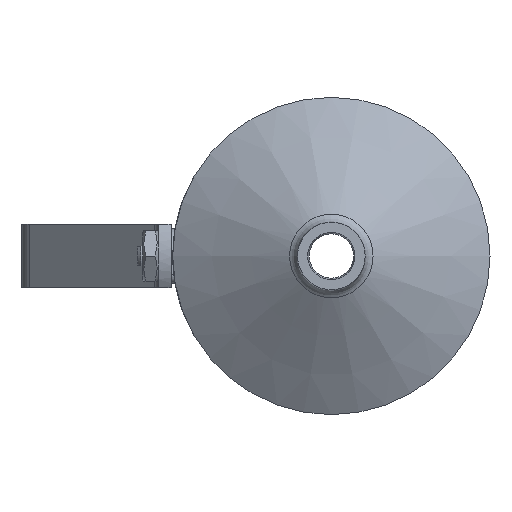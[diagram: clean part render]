
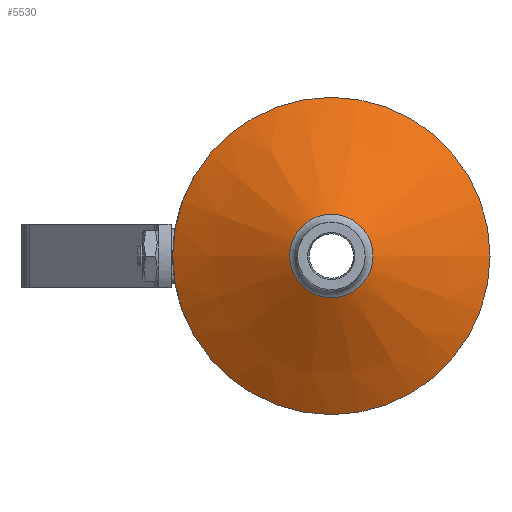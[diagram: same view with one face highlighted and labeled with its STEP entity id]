
A CAD part, left-side view. The second image highlights one B-rep face of the part: STEP entity #5530.
In plain terms, the highlighted conical face has half-angle 60 degrees and reference radius 31.575 mm.
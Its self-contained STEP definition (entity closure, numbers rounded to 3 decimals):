
#5482=CARTESIAN_POINT('',(-20.,-50.0,0.0));
#5483=VERTEX_POINT('',#5482);
#5484=CARTESIAN_POINT('',(-20.,0.0,0.0));
#5485=DIRECTION('',(-1.0,0.0,0.0));
#5486=DIRECTION('',(0.0,-1.0,0.0));
#5487=AXIS2_PLACEMENT_3D('',#5484,#5485,#5486);
#5488=CIRCLE('',#5487,50.0);
#5489=EDGE_CURVE('',#5483,#5483,#5488,.T.);
#5511=CARTESIAN_POINT('',(-30.638,0.0,0.0));
#5512=DIRECTION('',(1.0,0.0,0.0));
#5513=DIRECTION('',(0.0,-1.0,0.0));
#5514=AXIS2_PLACEMENT_3D('',#5511,#5512,#5513);
#5515=CONICAL_SURFACE('',#5514,31.575,60.);
#5516=CARTESIAN_POINT('',(-41.275,-13.15,0.0));
#5517=VERTEX_POINT('',#5516);
#5518=CARTESIAN_POINT('',(-41.275,0.0,0.0));
#5519=DIRECTION('',(-1.0,0.0,0.0));
#5520=DIRECTION('',(0.0,-1.0,0.0));
#5521=AXIS2_PLACEMENT_3D('',#5518,#5519,#5520);
#5522=CIRCLE('',#5521,13.15);
#5523=EDGE_CURVE('',#5517,#5517,#5522,.T.);
#5524=ORIENTED_EDGE('',*,*,#5523,.F.);
#5525=EDGE_LOOP('',(#5524));
#5526=FACE_OUTER_BOUND('',#5525,.T.);
#5527=ORIENTED_EDGE('',*,*,#5489,.T.);
#5528=EDGE_LOOP('',(#5527));
#5529=FACE_BOUND('',#5528,.T.);
#5530=ADVANCED_FACE('',(#5526,#5529),#5515,.T.);
